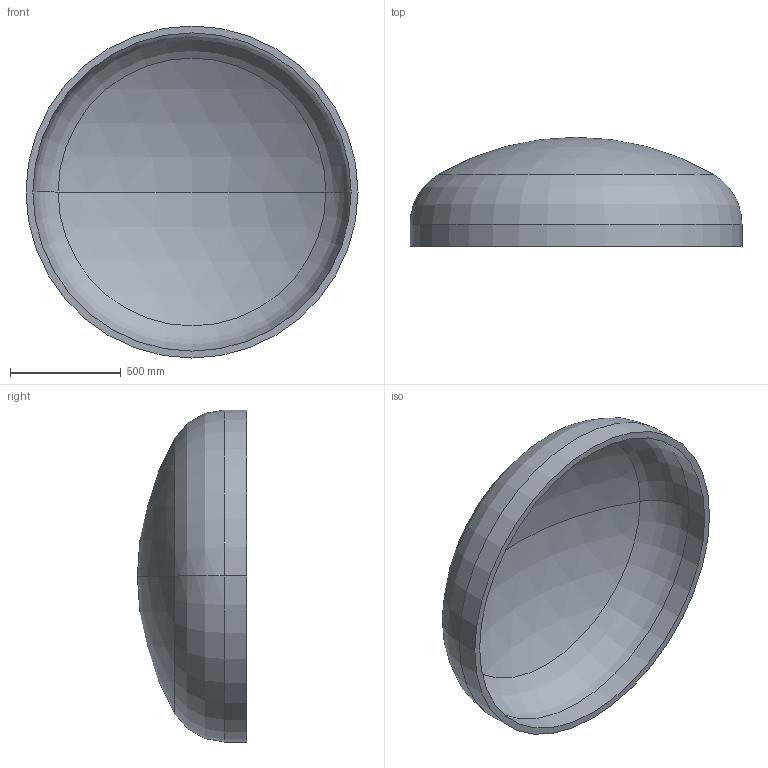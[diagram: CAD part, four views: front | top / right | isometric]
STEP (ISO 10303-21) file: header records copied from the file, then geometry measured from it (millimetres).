
FILE_DESCRIPTION (( 'STEP AP203' ), '1' );
FILE_NAME ('DIN 28013 Korbbogenform_-_Boden DIN 28013 - 1500 x 100 - I - s=31.step', '2016-07-01T10:42:36', ( '' ), ( '' ), 'SwSTEP 2.0', 'SolidWorks 2013', '' );
FILE_SCHEMA (( 'CONFIG_CONTROL_DESIGN' ));
Length unit declared in the file: millimetre
Products named in the file (1): DIN 28013 Korbbogenform_-_Boden DIN 28013 - 1500 x 100 - I - s=31
Bounding box: 1500 x 493.28 x 1500 mm (x, y, z)
Volume: 88079081.4 mm3; surface area: 5827597.3 mm2
Topology: 1 solids, 1 shells, 13 faces, 24 edges, 14 vertices
Faces by surface type: torus 4, cylinder 4, sphere 4, plane 1
Entity records: 407 total; most frequent: DIRECTION 72, CARTESIAN_POINT 52, ORIENTED_EDGE 48, AXIS2_PLACEMENT_3D 34, EDGE_CURVE 24, CIRCLE 20, EDGE_LOOP 14, VERTEX_POINT 14
